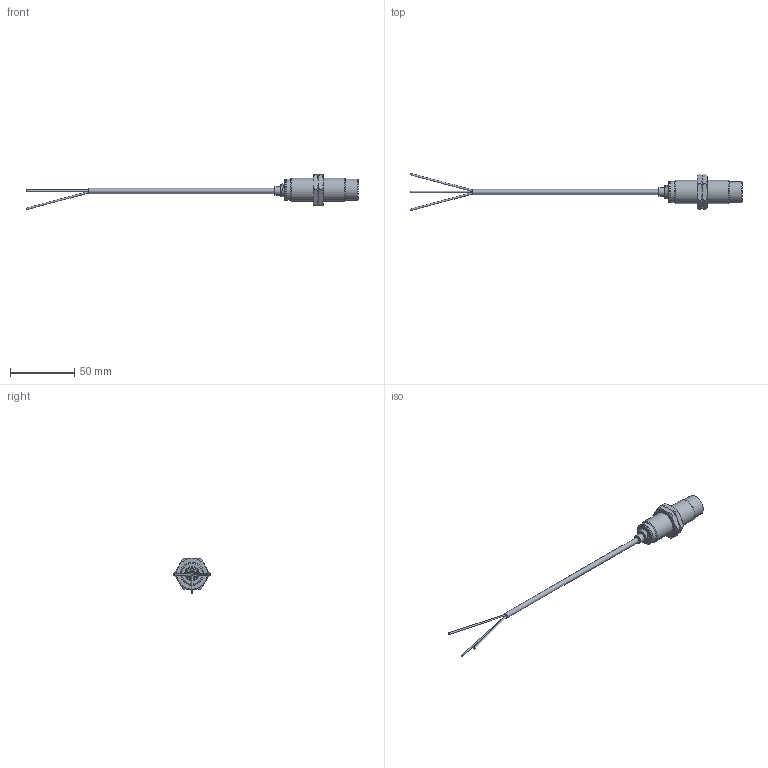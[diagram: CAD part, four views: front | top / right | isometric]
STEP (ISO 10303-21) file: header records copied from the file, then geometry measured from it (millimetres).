
FILE_DESCRIPTION( ( 'STEP AP203' ), '1' );
FILE_NAME( '//expscmdclustefs.cadenas.external/client_exchange/iodir/jobs/output/wkb81176748_no0/STEP/IGS245_2_03.stp', ' ', ( ' ' ), ( ' ' ), 'PSStep 15.0.47', 'PARTsolutions', ' ' );
FILE_SCHEMA( ( 'CONFIG_CONTROL_DESIGN' ) );
Length unit declared in the file: millimetre
Products named in the file (3): IGS245; _IGS245_part1; _SW24-L4-M18x1
Assembly tree (3 placements, depth 2):
  IGS245
    _IGS245_part1
    _SW24-L4-M18x1  x2
Bounding box: 258.46 x 29.09 x 27.54 mm (x, y, z)
Volume: 18365.1 mm3; surface area: 8216.4 mm2
Topology: 3 solids, 3 shells, 78 faces, 157 edges, 94 vertices
Faces by surface type: cone 31, plane 27, cylinder 12, torus 8
Full cylindrical faces by diameter (mm): 1.25 x3, 4 x1, 6.6 x1, 16.3 x1, 16.5 x1, 16.6 x1, 16.917 x2, 18 x1
Entity records: 1572 total; most frequent: CARTESIAN_POINT 433, DIRECTION 220, ORIENTED_EDGE 176, AXIS2_PLACEMENT_3D 107, EDGE_CURVE 88, EDGE_LOOP 84, FACE_OUTER_BOUND 69, VERTEX_POINT 64
